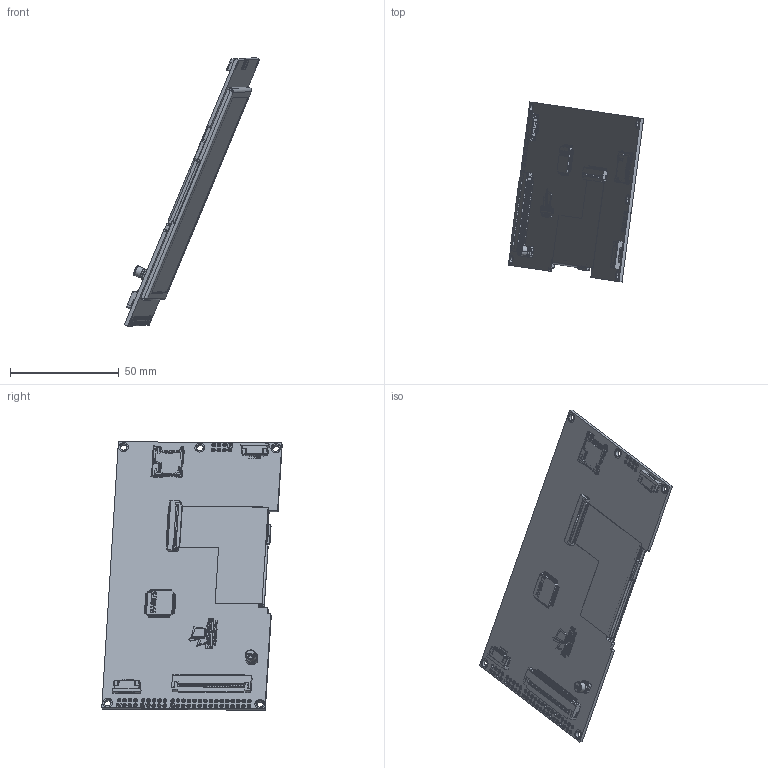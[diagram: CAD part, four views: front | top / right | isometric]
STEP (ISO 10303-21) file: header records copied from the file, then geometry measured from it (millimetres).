
FILE_DESCRIPTION (( 'STEP AP214' ), '1' );
FILE_NAME ('ER-TFTM043-3.STEP', '2024-04-27T05:13:48', ( '微软用户' ), ( '微软中国' ), 'SwSTEP 2.0', 'SolidWorks 2023', '' );
FILE_SCHEMA (( 'AUTOMOTIVE_DESIGN' ));
Length unit declared in the file: millimetre
Products named in the file (9): buydisplay_logo_z; ER-SD_Card; PCBA; FPC Connector_1.0-30P; 100uF 16V 6.3x7.7mm SMD Aluminum; FPC Connector_1.0-6P; ER-TFT043-3_Display Panel; ER-TFTM043-3; FPC Connector_0.5-40P
Assembly tree (9 placements, depth 2):
  ER-TFTM043-3
    PCBA
    ER-TFT043-3_Display Panel
    buydisplay_logo_z
    100uF 16V 6.3x7.7mm SMD Aluminum
    FPC Connector_0.5-40P
    FPC Connector_1.0-30P
    ER-SD_Card
    FPC Connector_1.0-6P  x2
Bounding box: 62.23 x 83 x 123.53 mm (x, y, z)
Volume: 36803.7 mm3; surface area: 70932 mm2
Topology: 158 solids, 181 shells, 7223 faces, 18958 edges, 12553 vertices
Faces by surface type: plane 5474, cylinder 1121, bspline 625, cone 3
Entity records: 288804 total; most frequent: CARTESIAN_POINT 57580, ORIENTED_EDGE 35506, DIRECTION 31220, EDGE_CURVE 17756, LINE 14116, VECTOR 14116, VERTEX_POINT 11756, AXIS2_PLACEMENT_3D 8552
